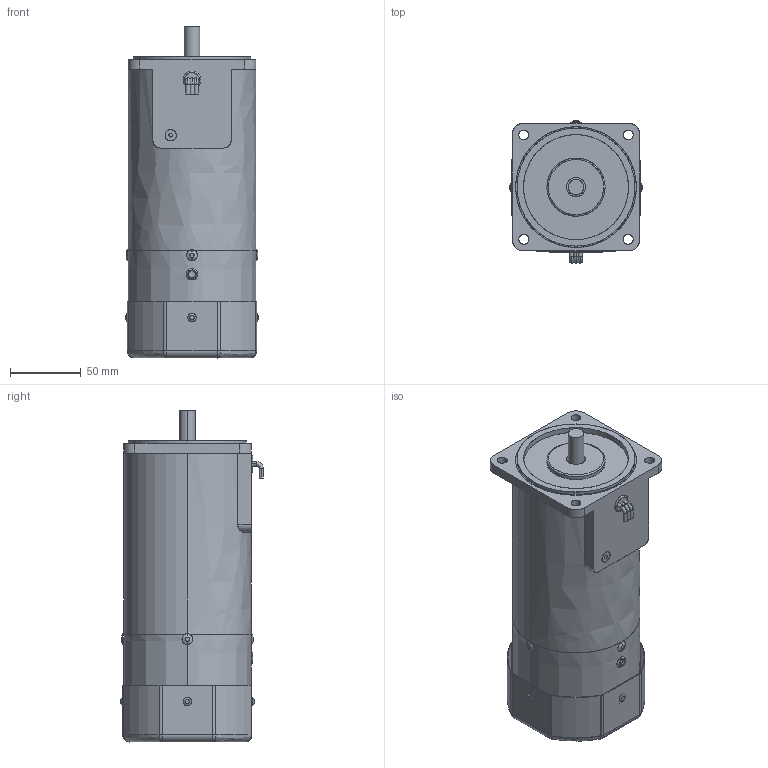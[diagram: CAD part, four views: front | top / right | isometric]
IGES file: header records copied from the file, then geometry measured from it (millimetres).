
Start section: SolidWorks IGES file using analytic representation for surfaces
Bounding box: 94 x 100.5 x 234 mm (x, y, z)
Surface area: 193942.9 mm2 (no closed solid volume)
Topology: 0 solids, 0 shells, 276 faces, 5976 edges, 5960 vertices
Faces by surface type: revolution 154, bspline 122
